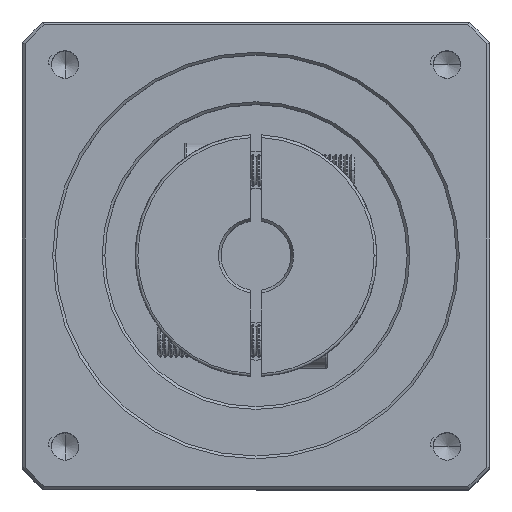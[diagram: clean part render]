
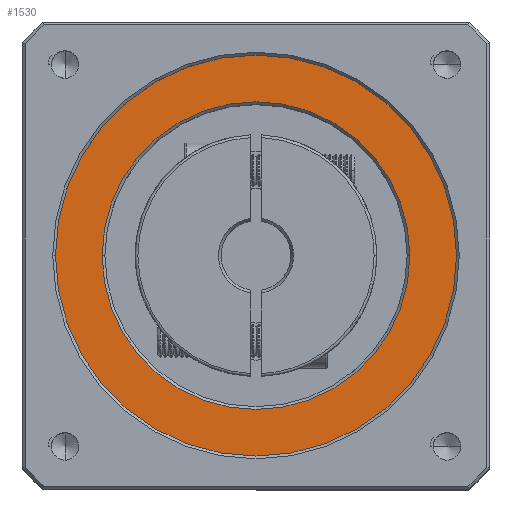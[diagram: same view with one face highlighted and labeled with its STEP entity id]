
A CAD part, top view. The second image highlights one B-rep face of the part: STEP entity #1530.
In plain terms, the highlighted planar face has unit normal (0, 0, 1).
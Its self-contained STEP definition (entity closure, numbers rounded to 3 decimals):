
#1530 = ADVANCED_FACE ( 'NONE', ( #64806, #45502 ), #20372, .T. ) ;
#4826 = DIRECTION ( 'NONE',  ( 1., 0., 0. ) ) ;
#5165 = AXIS2_PLACEMENT_3D ( 'NONE', #13183, #12833, #12497 ) ;
#6205 = EDGE_LOOP ( 'NONE', ( #101021, #55669 ) ) ;
#7587 = EDGE_CURVE ( 'NONE', #98190, #23550, #57925, .T. ) ;
#10179 = EDGE_LOOP ( 'NONE', ( #25212, #54275 ) ) ;
#12497 = DIRECTION ( 'NONE',  ( 1., 0., 0. ) ) ;
#12833 = DIRECTION ( 'NONE',  ( 0., 0., 1. ) ) ;
#13183 = CARTESIAN_POINT ( 'NONE',  ( -10.304, 7.876, 176.5 ) ) ;
#16359 = DIRECTION ( 'NONE',  ( 0., 0., -1. ) ) ;
#20372 = PLANE ( 'NONE',  #5165 ) ;
#23550 = VERTEX_POINT ( 'NONE', #68728 ) ;
#25212 = ORIENTED_EDGE ( 'NONE', *, *, #7587, .T. ) ;
#27529 = VERTEX_POINT ( 'NONE', #101510 ) ;
#32281 = CARTESIAN_POINT ( 'NONE',  ( -10.304, 7.876, 176.5 ) ) ;
#34018 = CARTESIAN_POINT ( 'NONE',  ( -10.304, 7.876, 176.5 ) ) ;
#36071 = AXIS2_PLACEMENT_3D ( 'NONE', #65641, #16359, #73829 ) ;
#40535 = DIRECTION ( 'NONE',  ( 1., 0., 0. ) ) ;
#42254 = DIRECTION ( 'NONE',  ( 1., 0., 0. ) ) ;
#45502 = FACE_BOUND ( 'NONE', #6205, .T. ) ;
#46267 = CARTESIAN_POINT ( 'NONE',  ( 17.696, 7.876, 176.5 ) ) ;
#49539 = CIRCLE ( 'NONE', #86121, 36.5 ) ;
#54070 = DIRECTION ( 'NONE',  ( 0., 0., 1. ) ) ;
#54275 = ORIENTED_EDGE ( 'NONE', *, *, #90788, .T. ) ;
#55669 = ORIENTED_EDGE ( 'NONE', *, *, #105231, .T. ) ;
#57925 = CIRCLE ( 'NONE', #102944, 36.5 ) ;
#64806 = FACE_OUTER_BOUND ( 'NONE', #10179, .T. ) ;
#65641 = CARTESIAN_POINT ( 'NONE',  ( -10.304, 7.876, 176.5 ) ) ;
#66250 = VERTEX_POINT ( 'NONE', #46267 ) ;
#68728 = CARTESIAN_POINT ( 'NONE',  ( -46.804, 7.876, 176.5 ) ) ;
#68906 = CARTESIAN_POINT ( 'NONE',  ( 26.196, 7.876, 176.5 ) ) ;
#73829 = DIRECTION ( 'NONE',  ( 1., 0., 0. ) ) ;
#79422 = CIRCLE ( 'NONE', #36071, 28. ) ;
#86121 = AXIS2_PLACEMENT_3D ( 'NONE', #34018, #91431, #42254 ) ;
#89718 = DIRECTION ( 'NONE',  ( 0., 0., -1. ) ) ;
#90788 = EDGE_CURVE ( 'NONE', #23550, #98190, #49539, .T. ) ;
#91431 = DIRECTION ( 'NONE',  ( 0., 0., 1. ) ) ;
#93443 = AXIS2_PLACEMENT_3D ( 'NONE', #32281, #89718, #40535 ) ;
#96745 = EDGE_CURVE ( 'NONE', #66250, #27529, #79422, .T. ) ;
#98190 = VERTEX_POINT ( 'NONE', #68906 ) ;
#100098 = CIRCLE ( 'NONE', #93443, 28. ) ;
#101021 = ORIENTED_EDGE ( 'NONE', *, *, #96745, .T. ) ;
#101510 = CARTESIAN_POINT ( 'NONE',  ( -38.304, 7.876, 176.5 ) ) ;
#102944 = AXIS2_PLACEMENT_3D ( 'NONE', #103201, #54070, #4826 ) ;
#103201 = CARTESIAN_POINT ( 'NONE',  ( -10.304, 7.876, 176.5 ) ) ;
#105231 = EDGE_CURVE ( 'NONE', #27529, #66250, #100098, .T. ) ;
